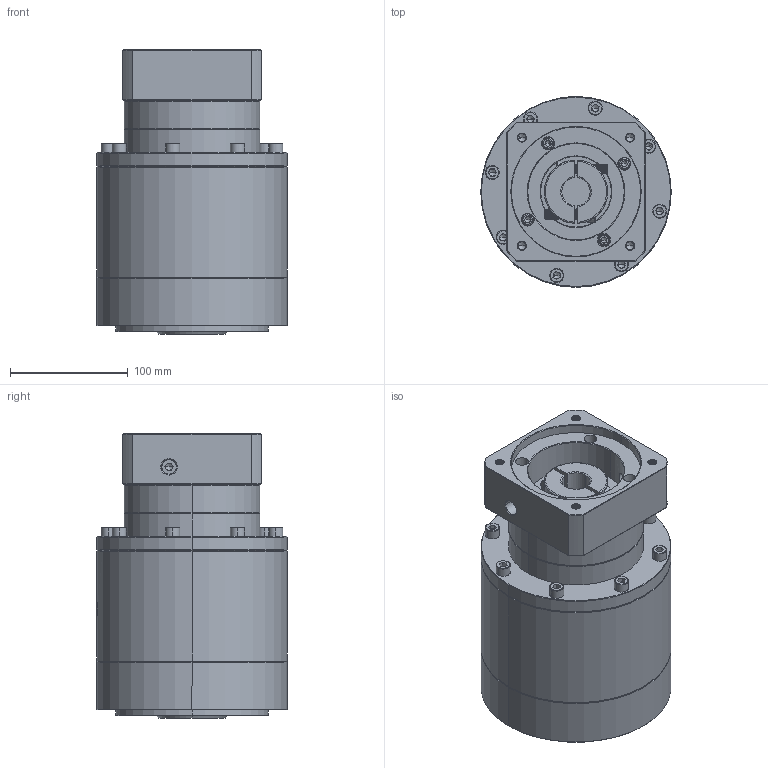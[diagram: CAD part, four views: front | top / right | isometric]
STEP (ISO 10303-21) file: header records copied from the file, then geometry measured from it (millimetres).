
FILE_DESCRIPTION (( 'STEP AP214' ), '1' );
FILE_NAME ('ZE160A-K35-L3-P2-24-110-130-M8.step', '2023-09-04T07:04:32', ( '' ), ( '' ), 'SwSTEP 2.0', 'SolidWorks 2016', '' );
FILE_SCHEMA (( 'AUTOMOTIVE_DESIGN' ));
Length unit declared in the file: millimetre
Products named in the file (1): ZE160A-K35-L3-P2-24-110-130-M8
Bounding box: 162 x 162 x 241.7 mm (x, y, z)
Volume: 3829943.9 mm3; surface area: 255946.9 mm2
Topology: 6 solids, 6 shells, 2490 faces, 6601 edges, 4232 vertices
Faces by surface type: plane 1107, cylinder 568, bspline 414, cone 345, torus 56
Entity records: 144219 total; most frequent: CARTESIAN_POINT 60943, ORIENTED_EDGE 13082, DIRECTION 9734, EDGE_CURVE 6541, VERTEX_POINT 4232, VECTOR 3444, LINE 3444, AXIS2_PLACEMENT_3D 3145
